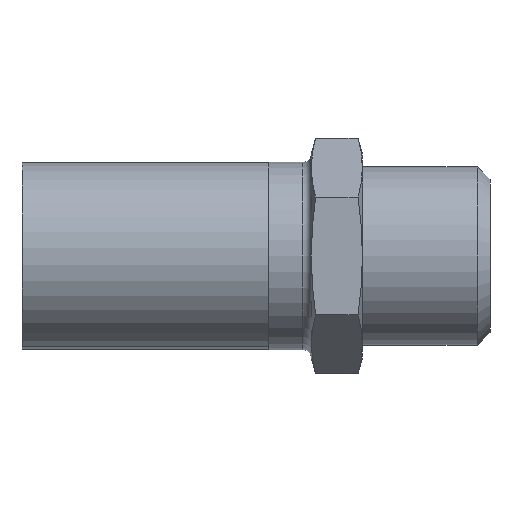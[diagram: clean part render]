
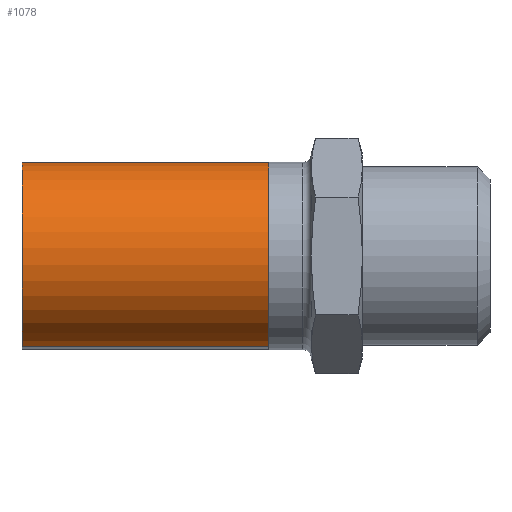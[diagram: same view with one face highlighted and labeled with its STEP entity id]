
A CAD part, front view. The second image highlights one B-rep face of the part: STEP entity #1078.
In plain terms, the highlighted cylindrical face has radius 11 mm (diameter 22 mm), a partial arc.
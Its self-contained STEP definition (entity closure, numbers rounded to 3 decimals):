
#63 = ORIENTED_EDGE ( 'NONE', *, *, #68, .T. ) ;
#68 = EDGE_CURVE ( 'NONE', #1082, #1523, #294, .T. ) ;
#80 = EDGE_CURVE ( 'NONE', #1523, #773, #1416, .T. ) ;
#103 = AXIS2_PLACEMENT_3D ( 'NONE', #1418, #335, #107 ) ;
#107 = DIRECTION ( 'NONE',  ( -1., 0., 0. ) ) ;
#110 = CARTESIAN_POINT ( 'NONE',  ( -11., 0., 29. ) ) ;
#126 = CYLINDRICAL_SURFACE ( 'NONE', #103, 11. ) ;
#257 = CARTESIAN_POINT ( 'NONE',  ( -11., 0., 29. ) ) ;
#266 = FACE_OUTER_BOUND ( 'NONE', #876, .T. ) ;
#294 = LINE ( 'NONE', #257, #662 ) ;
#335 = DIRECTION ( 'NONE',  ( 0., 0., -1. ) ) ;
#363 = ORIENTED_EDGE ( 'NONE', *, *, #988, .F. ) ;
#375 = CARTESIAN_POINT ( 'NONE',  ( 11., 0., 29. ) ) ;
#387 = DIRECTION ( 'NONE',  ( 0., 0., -1. ) ) ;
#407 = CARTESIAN_POINT ( 'NONE',  ( 11., 0., 29. ) ) ;
#420 = AXIS2_PLACEMENT_3D ( 'NONE', #869, #625, #1352 ) ;
#445 = DIRECTION ( 'NONE',  ( 0., 0., 1. ) ) ;
#625 = DIRECTION ( 'NONE',  ( 0., 0., 1. ) ) ;
#662 = VECTOR ( 'NONE', #387, 1000. ) ;
#682 = CARTESIAN_POINT ( 'NONE',  ( -11., 0., 0. ) ) ;
#715 = VECTOR ( 'NONE', #791, 1000. ) ;
#773 = VERTEX_POINT ( 'NONE', #1004 ) ;
#791 = DIRECTION ( 'NONE',  ( 0., 0., -1. ) ) ;
#869 = CARTESIAN_POINT ( 'NONE',  ( 0., 0., 0. ) ) ;
#876 = EDGE_LOOP ( 'NONE', ( #1002, #363, #63, #1509 ) ) ;
#942 = LINE ( 'NONE', #407, #715 ) ;
#974 = AXIS2_PLACEMENT_3D ( 'NONE', #1168, #445, #1279 ) ;
#988 = EDGE_CURVE ( 'NONE', #1082, #1201, #1357, .T. ) ;
#1002 = ORIENTED_EDGE ( 'NONE', *, *, #1477, .F. ) ;
#1004 = CARTESIAN_POINT ( 'NONE',  ( 11., 0., 0. ) ) ;
#1078 = ADVANCED_FACE ( 'NONE', ( #266 ), #126, .T. ) ;
#1082 = VERTEX_POINT ( 'NONE', #110 ) ;
#1168 = CARTESIAN_POINT ( 'NONE',  ( 0., 0., 29. ) ) ;
#1201 = VERTEX_POINT ( 'NONE', #375 ) ;
#1279 = DIRECTION ( 'NONE',  ( 1., 0., 0. ) ) ;
#1352 = DIRECTION ( 'NONE',  ( 1., 0., 0. ) ) ;
#1357 = CIRCLE ( 'NONE', #974, 11. ) ;
#1416 = CIRCLE ( 'NONE', #420, 11. ) ;
#1418 = CARTESIAN_POINT ( 'NONE',  ( 0., 0., 29. ) ) ;
#1477 = EDGE_CURVE ( 'NONE', #1201, #773, #942, .T. ) ;
#1509 = ORIENTED_EDGE ( 'NONE', *, *, #80, .T. ) ;
#1523 = VERTEX_POINT ( 'NONE', #682 ) ;
